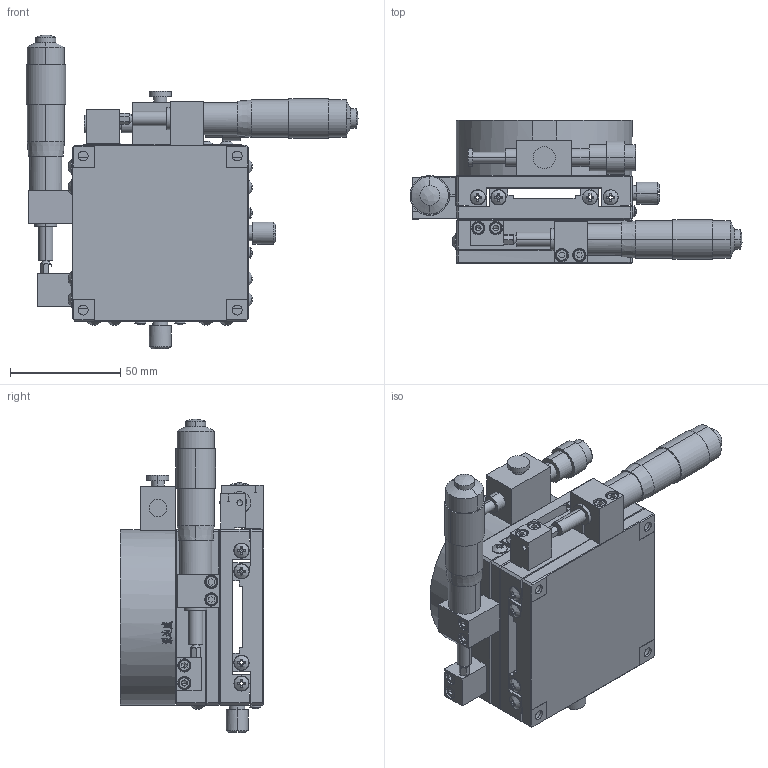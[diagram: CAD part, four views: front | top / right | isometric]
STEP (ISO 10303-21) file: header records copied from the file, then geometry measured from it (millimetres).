
FILE_DESCRIPTION (( 'STEP AP214' ), '1' );
FILE_NAME ('RD80.STEP', '2022-09-12T08:33:08', ( '' ), ( '' ), 'SwSTEP 2.0', 'SolidWorks 2017', '' );
FILE_SCHEMA (( 'AUTOMOTIVE_DESIGN' ));
Length unit declared in the file: millimetre
Products named in the file (3): 埴攫80; LD80菁釱; RD80
Assembly tree (2 placements, depth 2):
  RD80
    LD80菁釱
    埴攫80
Bounding box: 150.89 x 65 x 142.51 mm (x, y, z)
Volume: 132132.1 mm3; surface area: 90647 mm2
Topology: 1 solids, 34 shells, 1199 faces, 3445 edges, 2251 vertices
Faces by surface type: plane 562, bspline 361, cylinder 178, cone 96, torus 2
Entity records: 58178 total; most frequent: CARTESIAN_POINT 31120, ORIENTED_EDGE 6189, DIRECTION 3952, EDGE_CURVE 3374, VERTEX_POINT 2227, B_SPLINE_CURVE_WITH_KNOTS 1575, EDGE_LOOP 1339, AXIS2_PLACEMENT_3D 1323
